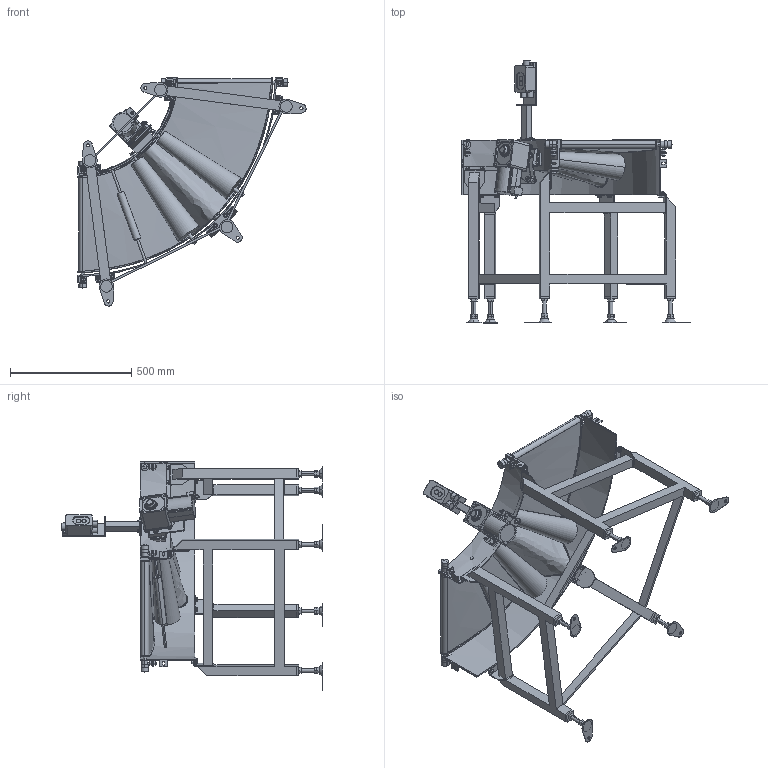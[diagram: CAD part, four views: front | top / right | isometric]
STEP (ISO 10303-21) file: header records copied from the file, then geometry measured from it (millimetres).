
FILE_DESCRIPTION( (''), '2;1');
FILE_NAME ('FNC-309-400-90°-L-K-100.stp','2025-02-17T15:37:56',(''),(''),'spGate 20.6.2 (****-****-****-****)','','');
FILE_SCHEMA (('AUTOMOTIVE_DESIGN'));
Length unit declared in the file: millimetre
Products named in the file (56): NewModel; TEMP_X_T-prt0; TEMP_X_T-prt1; TEMP_X_T-prt2; TEMP_X_T-prt3; TEMP_X_T-prt4; TEMP_X_T-prt5; TEMP_X_T-prt6; TEMP_X_T-prt7; TEMP_X_T-prt8; TEMP_X_T-prt9; TEMP_X_T-prt10; TEMP_X_T-prt11; TEMP_X_T-prt12; TEMP_X_T-prt13; TEMP_X_T-prt14; TEMP_X_T-prt15; TEMP_X_T-prt16; TEMP_X_T-prt17; TEMP_X_T-prt18; TEMP_X_T-prt19; TEMP_X_T-prt20; TEMP_X_T-prt21; TEMP_X_T-prt22; TEMP_X_T-prt23; TEMP_X_T-prt24; TEMP_X_T-prt25; TEMP_X_T-prt26; TEMP_X_T-prt27; TEMP_X_T-prt28; TEMP_X_T-prt29; TEMP_X_T-prt30; TEMP_X_T-prt31; TEMP_X_T-prt32; TEMP_X_T-prt33; TEMP_X_T-prt34; TEMP_X_T-prt35; TEMP_X_T-prt36; TEMP_X_T-prt37; TEMP_X_T-prt38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
Assembly tree (55 placements, depth 2):
  NewModel
    TEMP_X_T-prt0
    TEMP_X_T-prt1
    TEMP_X_T-prt2
    TEMP_X_T-prt3
    TEMP_X_T-prt4
    TEMP_X_T-prt5
    TEMP_X_T-prt6
    TEMP_X_T-prt7
    TEMP_X_T-prt8
    TEMP_X_T-prt9
    TEMP_X_T-prt10
    TEMP_X_T-prt11
    TEMP_X_T-prt12
    TEMP_X_T-prt13
    TEMP_X_T-prt14
    TEMP_X_T-prt15
    TEMP_X_T-prt16
    TEMP_X_T-prt17
    TEMP_X_T-prt18
    TEMP_X_T-prt19
    TEMP_X_T-prt20
    TEMP_X_T-prt21
    TEMP_X_T-prt22
    TEMP_X_T-prt23
    TEMP_X_T-prt24
    TEMP_X_T-prt25
    TEMP_X_T-prt26
    TEMP_X_T-prt27
    TEMP_X_T-prt28
    TEMP_X_T-prt29
    TEMP_X_T-prt30
    TEMP_X_T-prt31
    TEMP_X_T-prt32
    TEMP_X_T-prt33
    TEMP_X_T-prt34
    TEMP_X_T-prt35
    TEMP_X_T-prt36
    TEMP_X_T-prt37
    TEMP_X_T-prt38
    TEMP_X_T-prt39
    TEMP_X_T-prt40
    TEMP_X_T-prt41
    TEMP_X_T-prt42
    TEMP_X_T-prt43
    TEMP_X_T-prt44
    TEMP_X_T-prt45
    TEMP_X_T-prt46
    TEMP_X_T-prt47
    TEMP_X_T-prt48
    TEMP_X_T-prt49
    TEMP_X_T-prt50
    TEMP_X_T-prt51
    TEMP_X_T-prt52
    TEMP_X_T-prt53
    TEMP_X_T-prt54
Bounding box: 942.06 x 1081.5 x 942.06 mm (x, y, z)
Volume: 36586624.2 mm3; surface area: 3536031.7 mm2
Topology: 55 solids, 55 shells, 2058 faces, 4973 edges, 3255 vertices
Faces by surface type: plane 1350, cylinder 553, bspline 155
Entity records: 110612 total; most frequent: CARTESIAN_POINT 21034, ORIENTED_EDGE 9930, DIRECTION 9603, COLOUR_RGB 7078, PRESENTATION_STYLE_ASSIGNMENT 7078, STYLED_ITEM 7078, EDGE_CURVE 4965, DRAUGHTING_PRE_DEFINED_CURVE_FONT 4965
